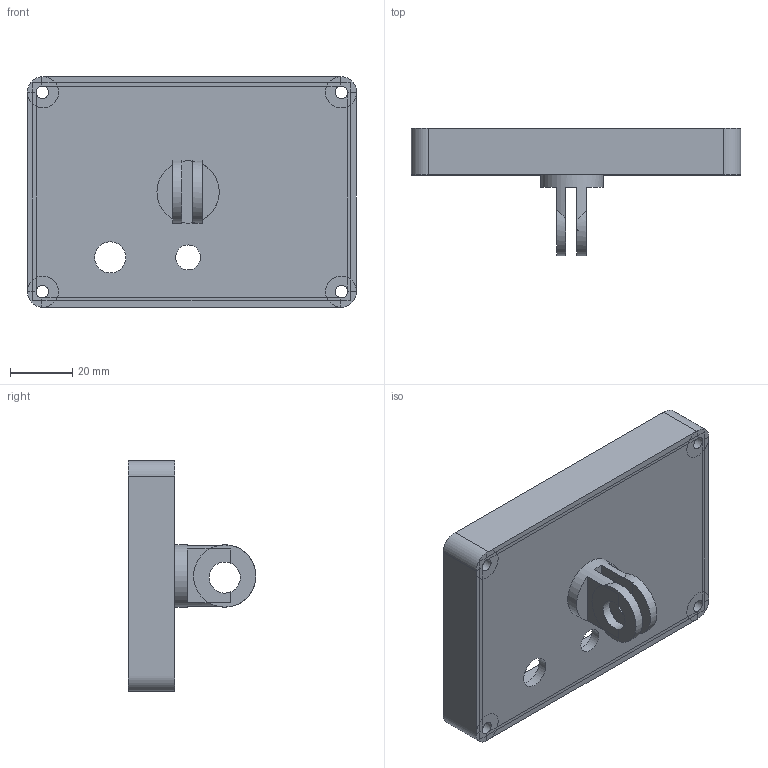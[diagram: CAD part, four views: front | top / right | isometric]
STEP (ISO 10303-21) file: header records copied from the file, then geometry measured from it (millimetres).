
FILE_DESCRIPTION(('FreeCAD Model'),'2;1');
FILE_NAME('E:/TOOLS/Misc/FCall3/CAD/TFT 28 enclosure/Adafruit_2.8__TFT_LCD_Enclosure_with_GoPro_mount/files/SERVER_BOT.step','2018-11-29T10:27:31',('Author'),(''), 'Open CASCADE STEP processor 7.2','FreeCAD','Unknown');
FILE_SCHEMA(('AUTOMOTIVE_DESIGN { 1 0 10303 214 1 1 1 1 }'));
Length unit declared in the file: millimetre
Products named in the file (1): SERVER_BOT
Bounding box: 105.7 x 41 x 73.99 mm (x, y, z)
Volume: 39636.9 mm3; surface area: 27263.8 mm2
Topology: 1 solids, 1 shells, 121 faces, 310 edges, 180 vertices
Faces by surface type: plane 94, cylinder 27
Full cylindrical faces by diameter (mm): 4 x4, 8 x1, 10 x3, 20 x1
Entity records: 4519 total; most frequent: DIRECTION 698, ORIENTED_EDGE 620, CARTESIAN_POINT 612, EDGE_CURVE 310, AXIS2_PLACEMENT_3D 266, VERTEX_POINT 180, LINE 166, VECTOR 166
